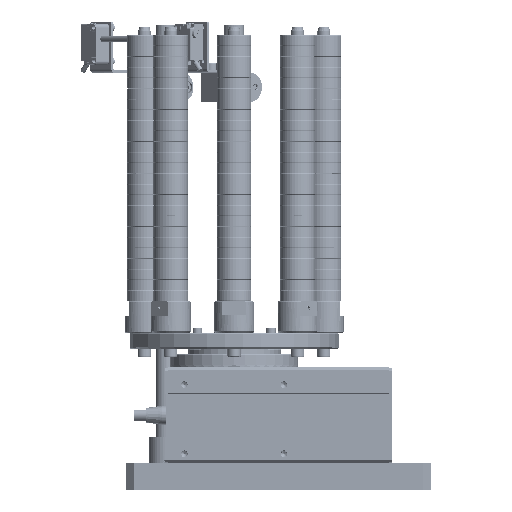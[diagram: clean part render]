
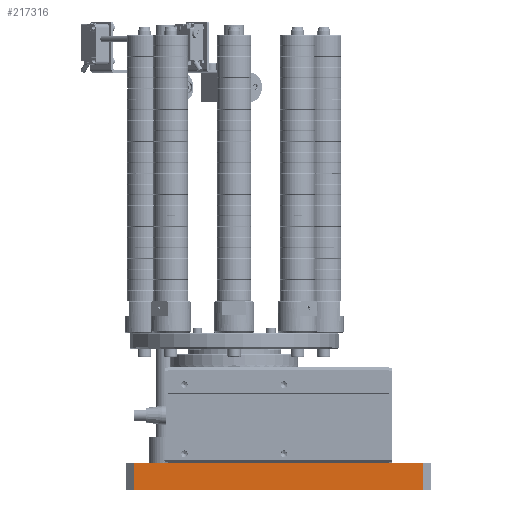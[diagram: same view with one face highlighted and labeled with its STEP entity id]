
A CAD part, top view. The second image highlights one B-rep face of the part: STEP entity #217316.
In plain terms, the highlighted planar face has unit normal (0, 0, 1).
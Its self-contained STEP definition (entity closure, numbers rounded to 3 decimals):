
#10152 = DIRECTION ( 'NONE',  ( 0., 0., -1. ) ) ;
#14576 = ORIENTED_EDGE ( 'NONE', *, *, #862461, .T. ) ;
#63570 = ORIENTED_EDGE ( 'NONE', *, *, #722493, .T. ) ;
#66130 = LINE ( 'NONE', #603735, #160265 ) ;
#67232 = LINE ( 'NONE', #338507, #761771 ) ;
#120494 = ORIENTED_EDGE ( 'NONE', *, *, #794565, .T. ) ;
#128792 = CARTESIAN_POINT ( 'NONE',  ( -75.5, -36., 60. ) ) ;
#132786 = DIRECTION ( 'NONE',  ( 1., 0., 0. ) ) ;
#139157 = DIRECTION ( 'NONE',  ( -1., 0., 0. ) ) ;
#160265 = VECTOR ( 'NONE', #132786, 1000. ) ;
#188598 = VERTEX_POINT ( 'NONE', #622044 ) ;
#217316 = ADVANCED_FACE ( 'NONE', ( #339354 ), #423450, .F. ) ;
#221546 = CARTESIAN_POINT ( 'NONE',  ( -75.5, -56., 60. ) ) ;
#285742 = CARTESIAN_POINT ( 'NONE',  ( 148.5, -36., 60. ) ) ;
#338507 = CARTESIAN_POINT ( 'NONE',  ( 148.5, -36., 60. ) ) ;
#339354 = FACE_OUTER_BOUND ( 'NONE', #342961, .T. ) ;
#342961 = EDGE_LOOP ( 'NONE', ( #774509, #14576, #120494, #63570 ) ) ;
#418226 = DIRECTION ( 'NONE',  ( 1., 0., 0. ) ) ;
#422857 = VERTEX_POINT ( 'NONE', #446252 ) ;
#423450 = PLANE ( 'NONE',  #711468 ) ;
#425275 = CARTESIAN_POINT ( 'NONE',  ( 142.5, -36., 60. ) ) ;
#446252 = CARTESIAN_POINT ( 'NONE',  ( 142.5, -56., 60. ) ) ;
#455837 = EDGE_CURVE ( 'NONE', #553423, #188598, #67232, .T. ) ;
#546396 = DIRECTION ( 'NONE',  ( 0., -1., 0. ) ) ;
#553423 = VERTEX_POINT ( 'NONE', #128792 ) ;
#603735 = CARTESIAN_POINT ( 'NONE',  ( 148.5, -56., 60. ) ) ;
#622044 = CARTESIAN_POINT ( 'NONE',  ( 142.5, -36., 60. ) ) ;
#662921 = VERTEX_POINT ( 'NONE', #221546 ) ;
#688083 = VECTOR ( 'NONE', #695787, 1000. ) ;
#695787 = DIRECTION ( 'NONE',  ( 0., 1., 0. ) ) ;
#711468 = AXIS2_PLACEMENT_3D ( 'NONE', #285742, #10152, #139157 ) ;
#722493 = EDGE_CURVE ( 'NONE', #422857, #188598, #753723, .T. ) ;
#753723 = LINE ( 'NONE', #425275, #688083 ) ;
#754748 = CARTESIAN_POINT ( 'NONE',  ( -75.5, -36., 60. ) ) ;
#761771 = VECTOR ( 'NONE', #418226, 1000. ) ;
#774509 = ORIENTED_EDGE ( 'NONE', *, *, #455837, .F. ) ;
#794565 = EDGE_CURVE ( 'NONE', #662921, #422857, #66130, .T. ) ;
#813752 = VECTOR ( 'NONE', #546396, 1000. ) ;
#825901 = LINE ( 'NONE', #754748, #813752 ) ;
#862461 = EDGE_CURVE ( 'NONE', #553423, #662921, #825901, .T. ) ;
